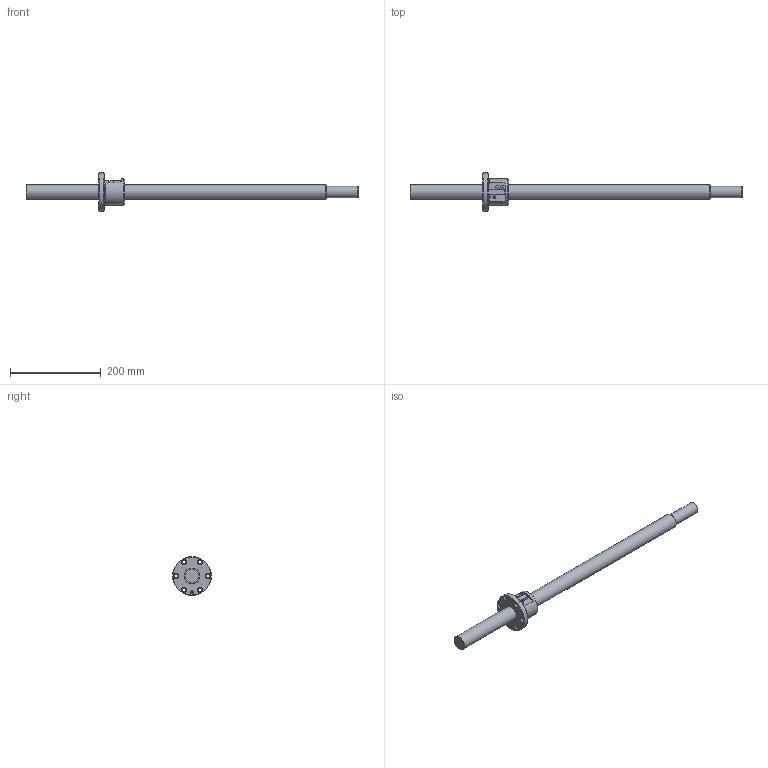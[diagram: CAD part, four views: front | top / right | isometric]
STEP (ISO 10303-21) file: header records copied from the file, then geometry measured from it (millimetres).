
FILE_DESCRIPTION(/* description */ ('STEP AP203'),/* implementation_level */ '2;1');
FILE_NAME(/* name */ 'BIF3205-5RRG0+730LC5A(00)',/* time_stamp */ '2024-07-15T07:28:49+02:00',/* author */ ('License CC BY-ND 4.0'),/* organization */ ('CADENAS'),/* preprocessor_version */ 'ST-DEVELOPER v19.3',/* originating_system */ 'PARTsolutions',/* authorisation */ ' ');
FILE_SCHEMA (('CONFIG_CONTROL_DESIGN'));
Length unit declared in the file: millimetre
Products named in the file (3): BIF3205-5RRG0+730LC5A(00); BIF3205-5RRG0+730LC5, C7A(0)_shaft; BIF 3205-5RR_nut
Assembly tree (2 placements, depth 2):
  BIF3205-5RRG0+730LC5A(00)
    BIF3205-5RRG0+730LC5, C7A(0)_shaft
    BIF 3205-5RR_nut
Bounding box: 730 x 85 x 85 mm (x, y, z)
Volume: 690509.3 mm3; surface area: 103296.2 mm2
Topology: 2 solids, 2 shells, 77 faces, 174 edges, 110 vertices
Faces by surface type: cylinder 36, plane 28, cone 9, torus 4
Full cylindrical faces by diameter (mm): 4.25 x2, 4.917 x1, 5.4 x4, 6.6 x6, 11 x6, 25.3 x1, 32 x2, 34.8 x2, 58 x1, 85 x1
Entity records: 2093 total; most frequent: CARTESIAN_POINT 406, DIRECTION 357, ORIENTED_EDGE 258, AXIS2_PLACEMENT_3D 162, EDGE_LOOP 145, FACE_BOUND 145, EDGE_CURVE 129, VERTEX_POINT 100
